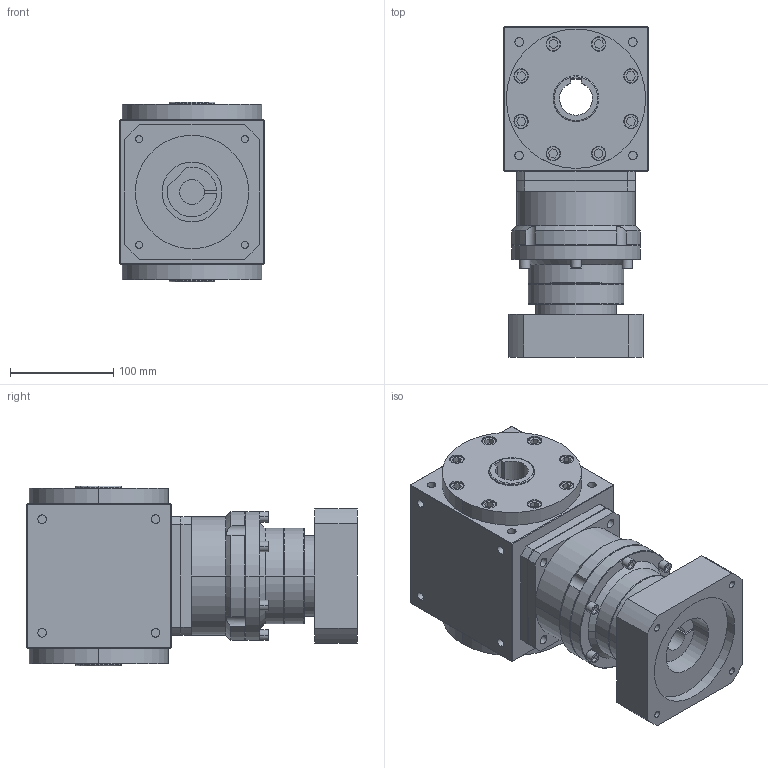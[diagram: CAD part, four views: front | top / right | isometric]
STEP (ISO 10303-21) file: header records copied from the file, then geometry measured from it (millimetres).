
FILE_DESCRIPTION (( 'STEP AP203' ), '1' );
FILE_NAME ('AT140-FH-L2 24-110-145-M8.STEP', '2024-12-25T01:37:02', ( '' ), ( '' ), 'SwSTEP 2.0', 'SolidWorks 2021', '' );
FILE_SCHEMA (( 'CONFIG_CONTROL_DESIGN' ));
Length unit declared in the file: millimetre
Products named in the file (3): AT140-FH-L2 24-110-145-M8; AT140-FH; VRB-115-L2-S2-P1 24-110-145-M8
Assembly tree (2 placements, depth 2):
  AT140-FH-L2 24-110-145-M8
    AT140-FH
    VRB-115-L2-S2-P1 24-110-145-M8
Bounding box: 140 x 320.5 x 174 mm (x, y, z)
Volume: 4867005.7 mm3; surface area: 308483.1 mm2
Topology: 2 solids, 2 shells, 542 faces, 1300 edges, 827 vertices
Faces by surface type: plane 292, cylinder 224, cone 22, torus 4
Entity records: 16166 total; most frequent: CARTESIAN_POINT 3194, DIRECTION 2681, ORIENTED_EDGE 2600, EDGE_CURVE 1300, AXIS2_PLACEMENT_3D 968, VERTEX_POINT 827, LINE 745, VECTOR 745
